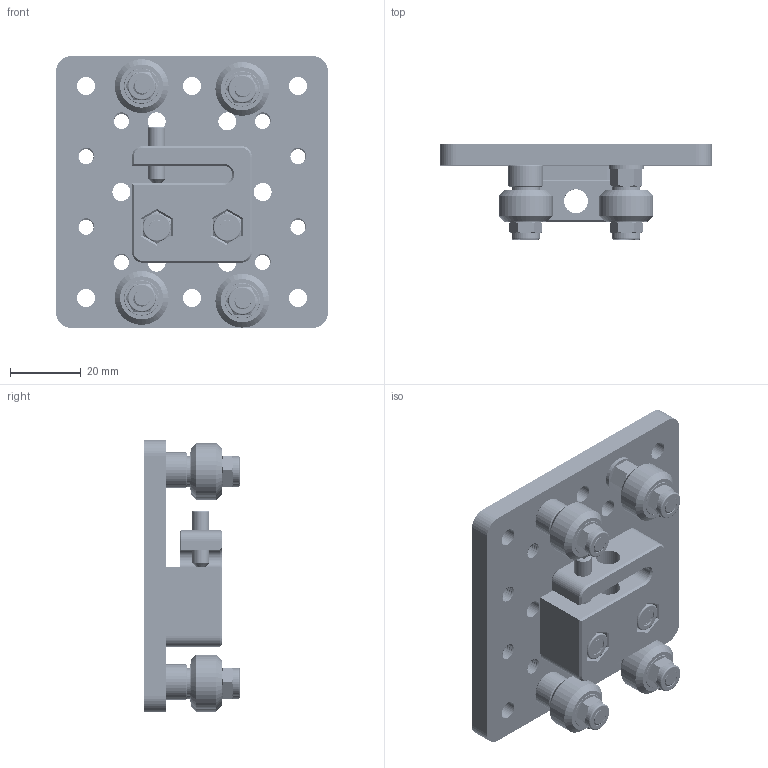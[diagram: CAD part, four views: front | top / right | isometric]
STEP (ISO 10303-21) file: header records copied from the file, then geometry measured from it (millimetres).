
FILE_DESCRIPTION(/* description */ (''),/* implementation_level */ '2;1');
FILE_NAME(/* name */ 'C-Beam Medium Gantry - Assembly.step',/* time_stamp */ '2026-05-13T14:57:51+03:00',/* author */ (''),/* organization */ (''),/* preprocessor_version */ 'ST-DEVELOPER v20.1',/* originating_system */ 'Autodesk Translation Framework v15.8.0.0',/* authorisation */ '');
FILE_SCHEMA (('AUTOMOTIVE_DESIGN { 1 0 10303 214 3 1 1 }'));
Length unit declared in the file: millimetre
Products named in the file (32): C-Beam Medium; TS-012 C-Beam Screw Drive Nut Block; DIN 916 - M5 x 16 Steel 4.6 Plain; M5 Nyloc Nut - DIN 985 - A2 Stainless Steel; M5 Nyloc Nut - DIN 985 - A2 Stainless Steel_1; WorkBee-Z-Axis-Nut-Block; M5x20mm Low Profile Bolt; C-Beam Gantry Plate; MS-003 Mini V-Slot Wheel Kits/MS-004 Polybarbone Mini V-Slot Wheel Ki
ts; Mini V-Slot Wheel - Aluminium Spacer Set; M5 Nyloc Nut - DIN 985 - A2 Stainless Steel_2; Mini V-Slot Wheel - Assembly; MS-010 Mini V-Slot Bearing Kit; Mini V-Slot Wheel - Eccentric Spacer Set; M5 Nyloc Nut - DIN 985 - A2 Stainless Steel_3; Mini V-Slot Wheel - Assembly_1; MS-010 Mini V-Slot Bearing Kit_1; Mini V-Slot Wheel - Aluminium Spacer Set_1; Aluminium Spacer -  5mm - 6mm; M5 Nyloc Nut - DIN 985 - A2 Stainless Steel_4; Mini V-Slot Wheel - Assembly_2; MS-010 Mini V-Slot Bearing Kit_2; Mini V-Slot Wheel - Eccentric Spacer Set_1; M5x25mm Low Profile Bolt; M5 Nyloc Nut - DIN 985 - A2 Stainless Steel_5; Hexagon Nut DIN 985 - M5 Stainless Steel A2 Plain v1; Mini Eccentric Spacer 6mm; Mini V-Slot Wheel - Assembly_3; Delrin Mini V Wheel; MS-010 Mini V-Slot Bearing Kit_3; MR105ZZ; Precision Shim 8 x 5 x 1
Assembly tree (59 placements, depth 6):
  C-Beam Medium
    TS-012 C-Beam Screw Drive Nut Block
      DIN 916 - M5 x 16 Steel 4.6 Plain
      M5 Nyloc Nut - DIN 985 - A2 Stainless Steel
        Hexagon Nut DIN 985 - M5 Stainless Steel A2 Plain v1
      M5 Nyloc Nut - DIN 985 - A2 Stainless Steel_1
        Hexagon Nut DIN 985 - M5 Stainless Steel A2 Plain v1
      WorkBee-Z-Axis-Nut-Block
      M5x20mm Low Profile Bolt  x2
    C-Beam Gantry Plate
    MS-003 Mini V-Slot Wheel Kits/MS-004 Polybarbone Mini V-Slot Wheel Ki
ts
      Mini V-Slot Wheel - Aluminium Spacer Set
        M5x25mm Low Profile Bolt
        Aluminium Spacer -  5mm - 6mm
        M5 Nyloc Nut - DIN 985 - A2 Stainless Steel_2
          Hexagon Nut DIN 985 - M5 Stainless Steel A2 Plain v1
        Mini V-Slot Wheel - Assembly
          Delrin Mini V Wheel
          MS-010 Mini V-Slot Bearing Kit
            MR105ZZ  x2
            Precision Shim 8 x 5 x 1
        Precision Shim 8 x 5 x 1
      Mini V-Slot Wheel - Eccentric Spacer Set
        M5x25mm Low Profile Bolt
        M5 Nyloc Nut - DIN 985 - A2 Stainless Steel_3
          Hexagon Nut DIN 985 - M5 Stainless Steel A2 Plain v1
        Mini Eccentric Spacer 6mm
        Mini V-Slot Wheel - Assembly_1
          Delrin Mini V Wheel
          MS-010 Mini V-Slot Bearing Kit_1
            MR105ZZ  x2
            Precision Shim 8 x 5 x 1
        Precision Shim 8 x 5 x 1
      Mini V-Slot Wheel - Aluminium Spacer Set_1
        M5x25mm Low Profile Bolt
        Aluminium Spacer -  5mm - 6mm
        M5 Nyloc Nut - DIN 985 - A2 Stainless Steel_4
          Hexagon Nut DIN 985 - M5 Stainless Steel A2 Plain v1
        Mini V-Slot Wheel - Assembly_2
          Delrin Mini V Wheel
          MS-010 Mini V-Slot Bearing Kit_2
            MR105ZZ  x2
            Precision Shim 8 x 5 x 1
        Precision Shim 8 x 5 x 1
      Mini V-Slot Wheel - Eccentric Spacer Set_1
        M5x25mm Low Profile Bolt
        M5 Nyloc Nut - DIN 985 - A2 Stainless Steel_5
          Hexagon Nut DIN 985 - M5 Stainless Steel A2 Plain v1
        Mini Eccentric Spacer 6mm
        Mini V-Slot Wheel - Assembly_3
          Delrin Mini V Wheel
          MS-010 Mini V-Slot Bearing Kit_3
            MR105ZZ  x2
            Precision Shim 8 x 5 x 1
        Precision Shim 8 x 5 x 1
Bounding box: 77.15 x 27 x 77.15 mm (x, y, z)
Volume: 53365.9 mm3; surface area: 37134.6 mm2
Topology: 81 solids, 81 shells, 1354 faces, 3186 edges, 2069 vertices
Faces by surface type: cylinder 712, plane 386, cone 184, torus 44, bspline 28
Full cylindrical faces by diameter (mm): 3.99 x50, 4 x1, 4.234 x44, 4.901 x101, 5 x28, 5.1 x19, 5.12 x24, 6.26 x16, 6.8 x2, 7.11 x2, 7.2 x2, 7.261 x12, 8 x14, 8.64 x4, 8.74 x16, 9 x2, 10 x18, 12 x2, 15.23 x4
Entity records: 33545 total; most frequent: CARTESIAN_POINT 20140, ORIENTED_EDGE 2824, DIRECTION 2307, EDGE_CURVE 1412, VERTEX_POINT 921, AXIS2_PLACEMENT_3D 868, EDGE_LOOP 655, LINE 571
